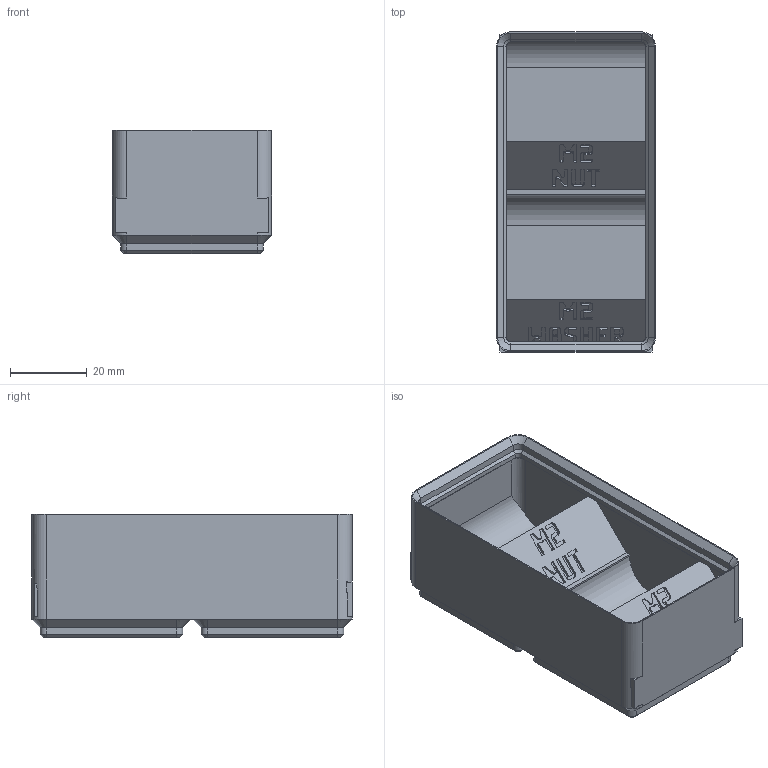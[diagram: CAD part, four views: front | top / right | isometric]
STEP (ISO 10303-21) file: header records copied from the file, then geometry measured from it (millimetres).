
FILE_DESCRIPTION(('Open CASCADE Model'),'2;1');
FILE_NAME('Open CASCADE Shape Model','2026-11-03T10:59:29',('Author'),( 'Open CASCADE'),'Open CASCADE STEP processor 8.0','build123d', 'Unknown');
FILE_SCHEMA(('AUTOMOTIVE_DESIGN { 1 0 10303 214 1 1 1 1 }'));
Products named in the file (1): COMPOUND
Bounding box: 41.5 x 83.5 x 32.1 mm (x, y, z)
Volume: 30738.8 mm3; surface area: 23922 mm2
Topology: 1 solids, 1 shells, 1473 faces, 4285 edges, 2834 vertices
Faces by surface type: plane 1415, cylinder 30, cone 28
Entity records: 103232 total; most frequent: CARTESIAN_POINT 17797, DIRECTION 15549, LINE 12389, VECTOR 12389, ORIENTED_EDGE 8570, PCURVE 8570, DEFINITIONAL_REPRESENTATION 8570, EDGE_CURVE 4285
